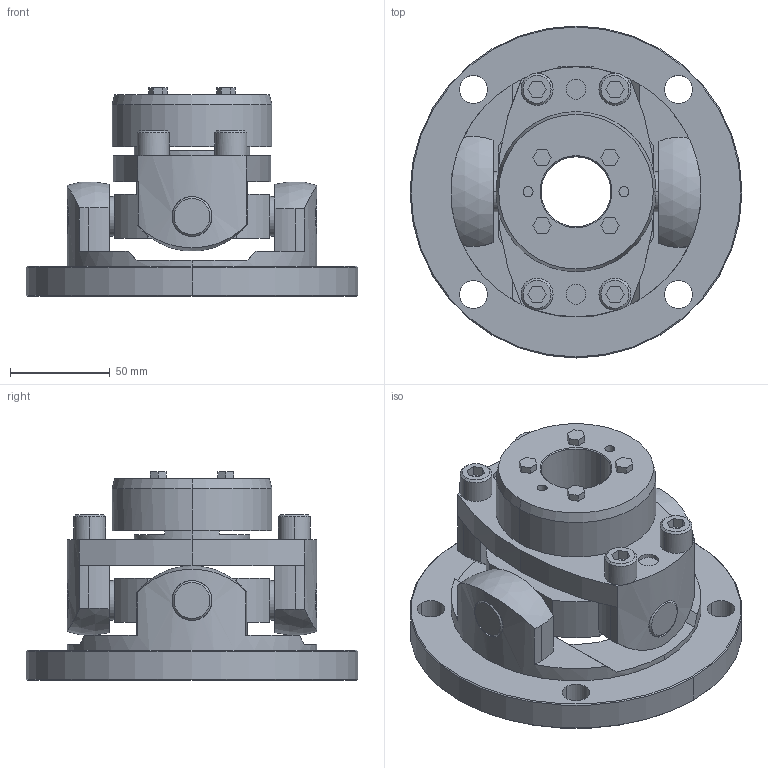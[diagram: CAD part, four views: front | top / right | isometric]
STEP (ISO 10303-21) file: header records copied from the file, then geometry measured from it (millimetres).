
FILE_DESCRIPTION((''),'2;1');
FILE_NAME('UCNF-125T7-35.stp','2011-09-22T08:25:09',(''),(''),'AutoCAD STEP 2000i','AutoCAD 2000i',', , ');
FILE_SCHEMA(('CONFIG_CONTROL_DESIGN'));
Length unit declared in the file: millimetre
Products named in the file (7): UCNF-125T7-35; 忣兜1; UCN125T7-T035; UCNF-12502; UCN125T7-T032-1; UCN125T7-T032; UCN125-SEN
Assembly tree (6 placements, depth 2):
  UCNF-125T7-35
    忣兜1
    UCN125T7-T035
    UCNF-12502
    UCN125T7-T032-1
    UCN125T7-T032
    UCN125-SEN
Bounding box: 166 x 166 x 104.5 mm (x, y, z)
Volume: 706504 mm3; surface area: 129362.6 mm2
Topology: 1 solids, 1 shells, 284 faces, 711 edges, 463 vertices
Faces by surface type: plane 138, cylinder 104, cone 38, sphere 4
Entity records: 9219 total; most frequent: CARTESIAN_POINT 1989, DIRECTION 1548, ORIENTED_EDGE 1422, EDGE_CURVE 711, AXIS2_PLACEMENT_3D 578, VERTEX_POINT 463, VECTOR 392, LINE 392
